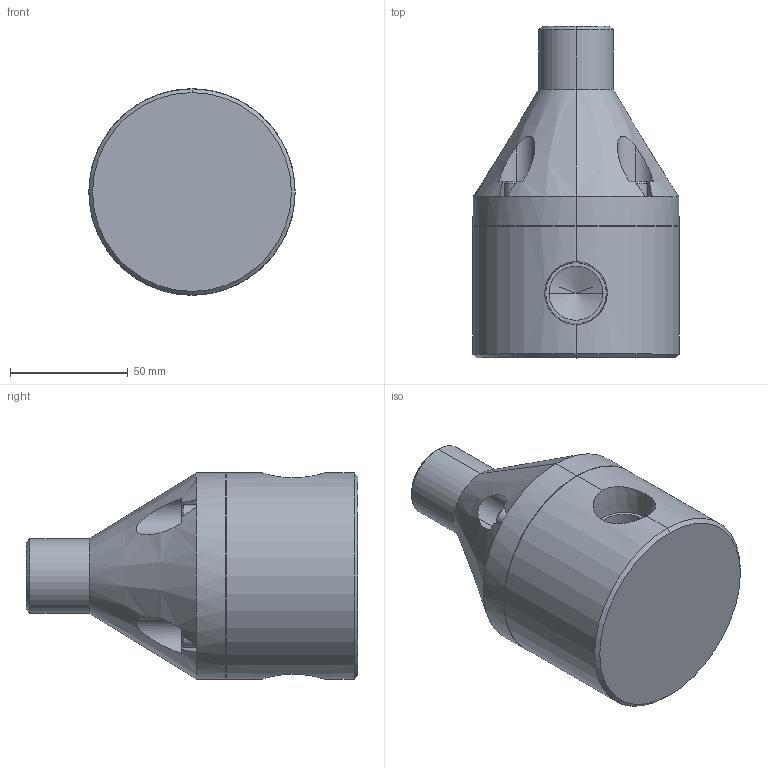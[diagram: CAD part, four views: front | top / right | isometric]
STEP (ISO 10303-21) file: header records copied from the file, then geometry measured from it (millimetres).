
FILE_DESCRIPTION (( 'STEP AP203' ), '1' );
FILE_NAME ('GBP0750-NPT.STEP', '2015-04-27T10:03:53', ( 'Dan Bernard' ), ( '' ), 'SwSTEP 2.0', 'SolidWorks 2008', '' );
FILE_SCHEMA (( 'CONFIG_CONTROL_DESIGN' ));
Length unit declared in the file: inch
Products named in the file (1): GBP0750-NPT
Bounding box: 87.63 x 140.97 x 87.63 mm (x, y, z)
Volume: 540113.5 mm3; surface area: 50451.5 mm2
Topology: 1 solids, 1 shells, 127 faces, 306 edges, 192 vertices
Faces by surface type: plane 71, cylinder 28, cone 26, torus 2
Entity records: 4135 total; most frequent: CARTESIAN_POINT 1076, DIRECTION 630, ORIENTED_EDGE 604, EDGE_CURVE 302, AXIS2_PLACEMENT_3D 222, VERTEX_POINT 192, VECTOR 186, LINE 186
